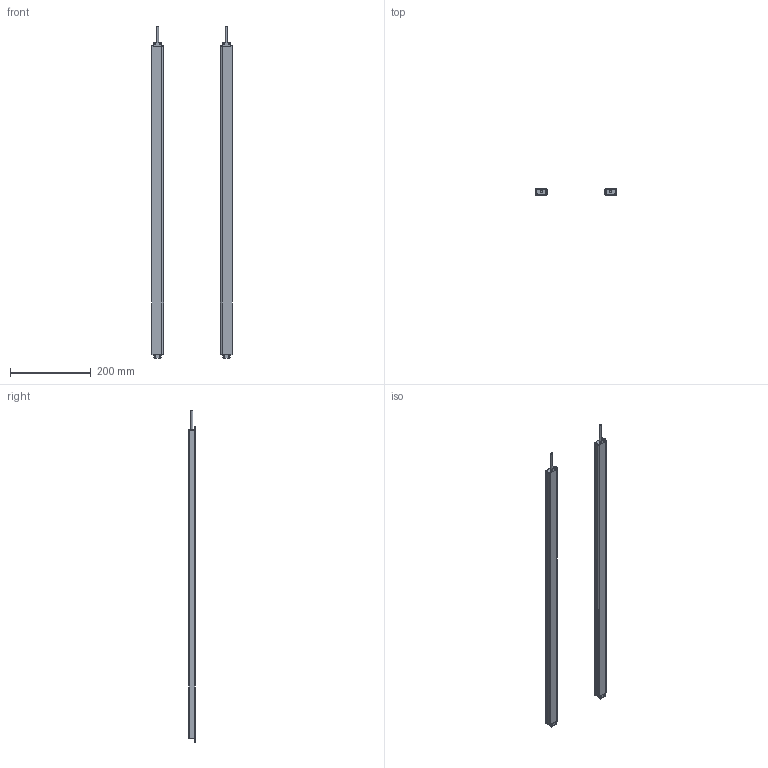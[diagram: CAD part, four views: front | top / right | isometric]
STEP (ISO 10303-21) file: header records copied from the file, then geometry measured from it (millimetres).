
FILE_DESCRIPTION(/* description */ (''),/* implementation_level */ '2;1');
FILE_NAME(/* name */ '3820（16X30ZW).stp',/* time_stamp */ '2020-07-14T19:19:06+08:00',/* author */ (''),/* organization */ (''),/* preprocessor_version */ 'ST-DEVELOPER v16',/* originating_system */ 'SIEMENS PLM Software NX 10.0',/* authorisation */ '');
FILE_SCHEMA (('AP203_CONFIGURATION_CONTROLLED_3D_DESIGN_OF_MECHANICAL_PARTS_AND_ASSEMBLIES_MIM_LF { 1 0 10303 403 2 1 2}'));
Length unit declared in the file: millimetre
Products named in the file (1): Admi58A03253m7iy
Bounding box: 200 x 16 x 821.5 mm (x, y, z)
Volume: 219177.2 mm3; surface area: 323504.2 mm2
Topology: 10 solids, 10 shells, 296 faces, 830 edges, 554 vertices
Faces by surface type: plane 160, cylinder 136
Full cylindrical faces by diameter (mm): 5 x2
Entity records: 9760 total; most frequent: DIRECTION 1692, CARTESIAN_POINT 1675, ORIENTED_EDGE 1652, EDGE_CURVE 826, AXIS2_PLACEMENT_3D 569, LINE 554, VECTOR 554, VERTEX_POINT 552
